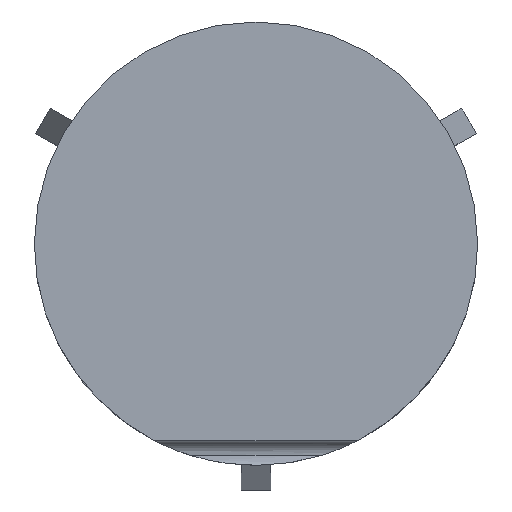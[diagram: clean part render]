
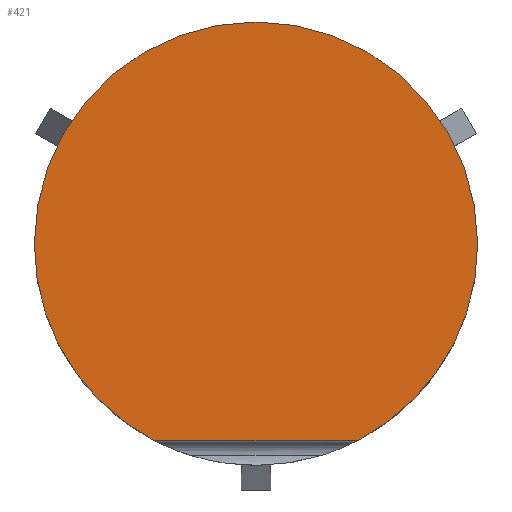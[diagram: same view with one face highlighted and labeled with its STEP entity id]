
A CAD part, top view. The second image highlights one B-rep face of the part: STEP entity #421.
In plain terms, the highlighted planar face has unit normal (0, 0, 1).
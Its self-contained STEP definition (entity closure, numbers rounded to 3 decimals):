
#1 = AXIS2_PLACEMENT_3D ( 'NONE', #248, #139, #796 ) ;
#9 = LINE ( 'NONE', #77, #667 ) ;
#17 = ORIENTED_EDGE ( 'NONE', *, *, #319, .F. ) ;
#51 = DIRECTION ( 'NONE',  ( 0., 0., 1. ) ) ;
#77 = CARTESIAN_POINT ( 'NONE',  ( -40., -67.862, 10. ) ) ;
#139 = DIRECTION ( 'NONE',  ( 0., 0., 1. ) ) ;
#151 = EDGE_CURVE ( 'NONE', #542, #389, #536, .T. ) ;
#172 = CIRCLE ( 'NONE', #586, 76.251 ) ;
#185 = DIRECTION ( 'NONE',  ( 0., 0., 1. ) ) ;
#199 = CIRCLE ( 'NONE', #1, 76.251 ) ;
#228 = CARTESIAN_POINT ( 'NONE',  ( 0., 0., 10. ) ) ;
#248 = CARTESIAN_POINT ( 'NONE',  ( 0., 0., 10. ) ) ;
#310 = DIRECTION ( 'NONE',  ( 0., 0., 1. ) ) ;
#315 = CARTESIAN_POINT ( 'NONE',  ( 0., 0., 10. ) ) ;
#316 = ORIENTED_EDGE ( 'NONE', *, *, #1146, .T. ) ;
#319 = EDGE_CURVE ( 'NONE', #367, #389, #9, .T. ) ;
#367 = VERTEX_POINT ( 'NONE', #936 ) ;
#389 = VERTEX_POINT ( 'NONE', #493 ) ;
#394 = AXIS2_PLACEMENT_3D ( 'NONE', #964, #185, #582 ) ;
#411 = FACE_OUTER_BOUND ( 'NONE', #863, .T. ) ;
#421 = ADVANCED_FACE ( 'NONE', ( #411 ), #489, .T. ) ;
#466 = VERTEX_POINT ( 'NONE', #678 ) ;
#467 = DIRECTION ( 'NONE',  ( -1., 0., 0. ) ) ;
#489 = PLANE ( 'NONE',  #394 ) ;
#493 = CARTESIAN_POINT ( 'NONE',  ( -34.77, -67.862, 10. ) ) ;
#502 = CARTESIAN_POINT ( 'NONE',  ( -76.251, 0., 10. ) ) ;
#511 = EDGE_CURVE ( 'NONE', #466, #542, #172, .T. ) ;
#536 = CIRCLE ( 'NONE', #877, 76.251 ) ;
#542 = VERTEX_POINT ( 'NONE', #502 ) ;
#582 = DIRECTION ( 'NONE',  ( 1., 0., 0. ) ) ;
#586 = AXIS2_PLACEMENT_3D ( 'NONE', #315, #310, #791 ) ;
#633 = ORIENTED_EDGE ( 'NONE', *, *, #151, .T. ) ;
#667 = VECTOR ( 'NONE', #467, 1000. ) ;
#678 = CARTESIAN_POINT ( 'NONE',  ( 76.251, 0., 10. ) ) ;
#791 = DIRECTION ( 'NONE',  ( 1., 0., 0. ) ) ;
#796 = DIRECTION ( 'NONE',  ( 1., 0., 0. ) ) ;
#863 = EDGE_LOOP ( 'NONE', ( #17, #316, #940, #633 ) ) ;
#877 = AXIS2_PLACEMENT_3D ( 'NONE', #228, #51, #988 ) ;
#936 = CARTESIAN_POINT ( 'NONE',  ( 34.77, -67.862, 10. ) ) ;
#940 = ORIENTED_EDGE ( 'NONE', *, *, #511, .T. ) ;
#964 = CARTESIAN_POINT ( 'NONE',  ( 0., 0., 10. ) ) ;
#988 = DIRECTION ( 'NONE',  ( 1., 0., 0. ) ) ;
#1146 = EDGE_CURVE ( 'NONE', #367, #466, #199, .T. ) ;
